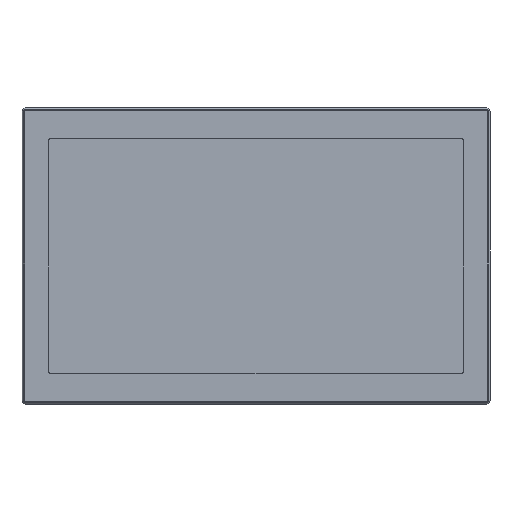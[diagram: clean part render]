
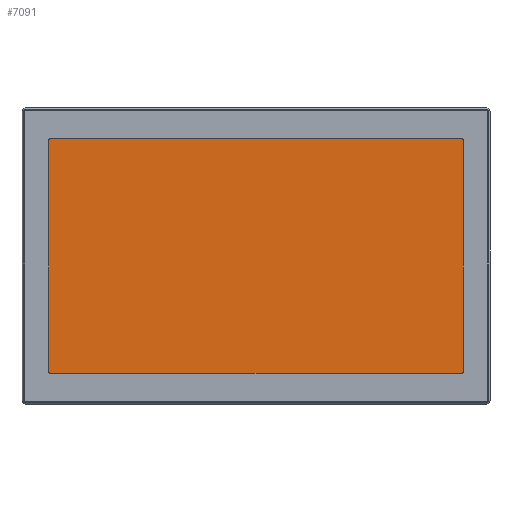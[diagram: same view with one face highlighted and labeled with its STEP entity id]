
A CAD part, top view. The second image highlights one B-rep face of the part: STEP entity #7091.
In plain terms, the highlighted planar face has unit normal (0, 0, 1).
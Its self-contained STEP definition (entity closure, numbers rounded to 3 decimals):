
#7091=ADVANCED_FACE('',(#12113),#9223,.F.);
#9223=PLANE('',#63247);
#12113=FACE_OUTER_BOUND('',#15583,.T.);
#15583=EDGE_LOOP('',(#32727,#32728,#32729,#32730,#32731,#32732,#32733,#32734));
#17308=CIRCLE('',#63243,1.);
#17309=CIRCLE('',#63244,1.);
#17310=CIRCLE('',#63245,1.);
#17311=CIRCLE('',#63246,1.);
#32727=ORIENTED_EDGE('',*,*,#47712,.T.);
#32728=ORIENTED_EDGE('',*,*,#47713,.T.);
#32729=ORIENTED_EDGE('',*,*,#47714,.T.);
#32730=ORIENTED_EDGE('',*,*,#47715,.T.);
#32731=ORIENTED_EDGE('',*,*,#47716,.T.);
#32732=ORIENTED_EDGE('',*,*,#47717,.T.);
#32733=ORIENTED_EDGE('',*,*,#47718,.T.);
#32734=ORIENTED_EDGE('',*,*,#47719,.T.);
#39496=VERTEX_POINT('',#115556);
#39497=VERTEX_POINT('',#115557);
#39498=VERTEX_POINT('',#115559);
#39499=VERTEX_POINT('',#115561);
#39500=VERTEX_POINT('',#115563);
#39501=VERTEX_POINT('',#115565);
#39502=VERTEX_POINT('',#115567);
#39503=VERTEX_POINT('',#115569);
#47712=EDGE_CURVE('',#39496,#39497,#53504,.T.);
#47713=EDGE_CURVE('',#39497,#39498,#17308,.T.);
#47714=EDGE_CURVE('',#39498,#39499,#53505,.T.);
#47715=EDGE_CURVE('',#39499,#39500,#17309,.T.);
#47716=EDGE_CURVE('',#39500,#39501,#53506,.T.);
#47717=EDGE_CURVE('',#39501,#39502,#17310,.T.);
#47718=EDGE_CURVE('',#39502,#39503,#53507,.T.);
#47719=EDGE_CURVE('',#39503,#39496,#17311,.T.);
#53504=LINE('',#115555,#58898);
#53505=LINE('',#115560,#58899);
#53506=LINE('',#115564,#58900);
#53507=LINE('',#115568,#58901);
#58898=VECTOR('',#76643,1.);
#58899=VECTOR('',#76646,1.);
#58900=VECTOR('',#76649,1.);
#58901=VECTOR('',#76652,1.);
#63243=AXIS2_PLACEMENT_3D('',#115558,#76644,#76645);
#63244=AXIS2_PLACEMENT_3D('',#115562,#76647,#76648);
#63245=AXIS2_PLACEMENT_3D('',#115566,#76650,#76651);
#63246=AXIS2_PLACEMENT_3D('',#115570,#76653,#76654);
#63247=AXIS2_PLACEMENT_3D('',#115571,#76655,#76656);
#76643=DIRECTION('',(-1.,0.,0.));
#76644=DIRECTION('',(0.,0.,1.));
#76645=DIRECTION('',(1.,0.,0.));
#76646=DIRECTION('',(0.,-1.,0.));
#76647=DIRECTION('',(0.,0.,1.));
#76648=DIRECTION('',(1.,0.,0.));
#76649=DIRECTION('',(1.,0.,0.));
#76650=DIRECTION('',(0.,0.,1.));
#76651=DIRECTION('',(1.,0.,0.));
#76652=DIRECTION('',(0.,1.,0.));
#76653=DIRECTION('',(0.,0.,1.));
#76654=DIRECTION('',(1.,0.,0.));
#76655=DIRECTION('',(0.,0.,-1.));
#76656=DIRECTION('',(1.,0.,0.));
#115555=CARTESIAN_POINT('',(27.4,262.8,66.125));
#115556=CARTESIAN_POINT('',(436.2,262.8,66.125));
#115557=CARTESIAN_POINT('',(27.4,262.8,66.125));
#115558=CARTESIAN_POINT('',(27.4,261.8,66.125));
#115559=CARTESIAN_POINT('',(26.4,261.8,66.125));
#115560=CARTESIAN_POINT('',(26.4,261.8,66.125));
#115561=CARTESIAN_POINT('',(26.4,31.8,66.125));
#115562=CARTESIAN_POINT('',(27.4,31.8,66.125));
#115563=CARTESIAN_POINT('',(27.4,30.8,66.125));
#115564=CARTESIAN_POINT('',(27.4,30.8,66.125));
#115565=CARTESIAN_POINT('',(436.2,30.8,66.125));
#115566=CARTESIAN_POINT('',(436.2,31.8,66.125));
#115567=CARTESIAN_POINT('',(437.2,31.8,66.125));
#115568=CARTESIAN_POINT('',(437.2,261.8,66.125));
#115569=CARTESIAN_POINT('',(437.2,261.8,66.125));
#115570=CARTESIAN_POINT('',(436.2,261.8,66.125));
#115571=CARTESIAN_POINT('',(436.2,261.8,66.125));
